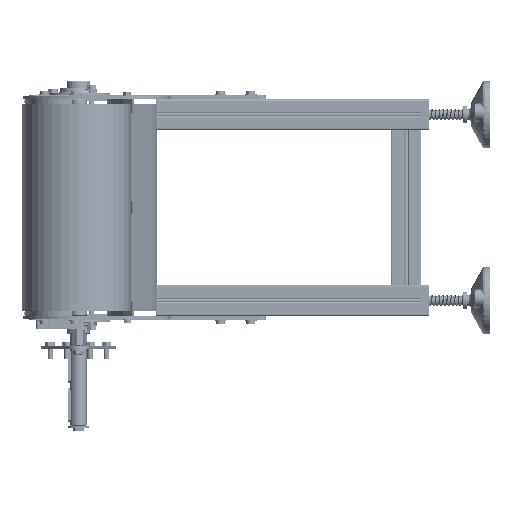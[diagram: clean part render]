
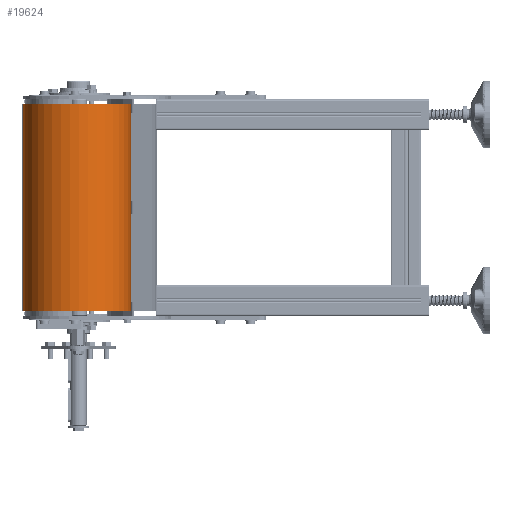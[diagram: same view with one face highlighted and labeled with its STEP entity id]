
A CAD part, left-side view. The second image highlights one B-rep face of the part: STEP entity #19624.
In plain terms, the highlighted free-form (B-spline) face has degree [1, 3] with [2, 28] control points.
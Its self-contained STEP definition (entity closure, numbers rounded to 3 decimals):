
#2871 = AXIS2_PLACEMENT_3D ( 'NONE', #120119, #69837, #111381 ) ;
#5144 = CARTESIAN_POINT ( 'NONE',  ( -152.4, -3.225, 1649.804 ) ) ;
#5805 = CARTESIAN_POINT ( 'NONE',  ( 152.4, 2.663, 1623.31 ) ) ;
#6462 = CARTESIAN_POINT ( 'NONE',  ( -152.4, -75.305, 1699.297 ) ) ;
#7128 = CARTESIAN_POINT ( 'NONE',  ( 152.4, -125.985, 1682.488 ) ) ;
#7781 = CARTESIAN_POINT ( 'NONE',  ( -152.4, 2.174, 1628.895 ) ) ;
#13216 = CARTESIAN_POINT ( 'NONE',  ( -152.4, -147.124, 1657.788 ) ) ;
#13993 = LINE ( 'NONE', #115174, #78661 ) ;
#15275 = ORIENTED_EDGE ( 'NONE', *, *, #108501, .T. ) ;
#15845 = CARTESIAN_POINT ( 'NONE',  ( 152.4, 1.354, 1634.239 ) ) ;
#16119 = CARTESIAN_POINT ( 'NONE',  ( -152.4, 2.652, 1623.509 ) ) ;
#16498 = CARTESIAN_POINT ( 'NONE',  ( 152.4, 2.567, 1624.859 ) ) ;
#17158 = CARTESIAN_POINT ( 'NONE',  ( -152.4, -43.595, 1692.125 ) ) ;
#19624 = ADVANCED_FACE ( 'NONE', ( #83537 ), #74809, .T. ) ;
#22585 = CARTESIAN_POINT ( 'NONE',  ( -152.4, -155.148, 1605.052 ) ) ;
#22898 = EDGE_CURVE ( 'NONE', #95676, #47160, #109089, .T. ) ;
#23226 = CARTESIAN_POINT ( 'NONE',  ( -152.4, -156.738, 1626.73 ) ) ;
#23961 = ORIENTED_EDGE ( 'NONE', *, *, #37957, .F. ) ;
#26605 = ORIENTED_EDGE ( 'NONE', *, *, #125986, .T. ) ;
#26676 = DIRECTION ( 'NONE',  ( 1., 0., 0. ) ) ;
#26745 = VECTOR ( 'NONE', #34894, 1000. ) ;
#27206 = CARTESIAN_POINT ( 'NONE',  ( -152.4, -96.785, 1696.785 ) ) ;
#27875 = CARTESIAN_POINT ( 'NONE',  ( -152.4, -17.326, 1672.97 ) ) ;
#28529 = CARTESIAN_POINT ( 'NONE',  ( 152.4, -64.311, 1698.334 ) ) ;
#28569 = DIRECTION ( 'NONE',  ( -1., 0., 0. ) ) ;
#28645 = DIRECTION ( 'NONE',  ( -1., 0., 0. ) ) ;
#29317 = CARTESIAN_POINT ( 'NONE',  ( 152.4, -155.148, 1605.052 ) ) ;
#34894 = DIRECTION ( 'NONE',  ( 0., 0.057, -0.998 ) ) ;
#35908 = CARTESIAN_POINT ( 'NONE',  ( 152.4, -155.148, 1605.052 ) ) ;
#36575 = CARTESIAN_POINT ( 'NONE',  ( 152.4, -157.044, 1615.7 ) ) ;
#37226 = CARTESIAN_POINT ( 'NONE',  ( -152.4, 2.456, 1626.206 ) ) ;
#37881 = CARTESIAN_POINT ( 'NONE',  ( 152.4, 1.995, 1630.235 ) ) ;
#37957 = EDGE_CURVE ( 'NONE', #95676, #90170, #107754, .T. ) ;
#38552 = CARTESIAN_POINT ( 'NONE',  ( 152.4, 2.615, 1624.164 ) ) ;
#45948 = CARTESIAN_POINT ( 'NONE',  ( 152.4, 2.174, 1628.895 ) ) ;
#47160 = VERTEX_POINT ( 'NONE', #92382 ) ;
#47270 = CARTESIAN_POINT ( 'NONE',  ( 152.4, -156.738, 1626.73 ) ) ;
#47941 = CARTESIAN_POINT ( 'NONE',  ( 152.4, -75.305, 1699.297 ) ) ;
#47969 = LINE ( 'NONE', #120362, #106048 ) ;
#48318 = EDGE_CURVE ( 'NONE', #47160, #59933, #103376, .T. ) ;
#48590 = CARTESIAN_POINT ( 'NONE',  ( 152.4, -33.883, 1686.882 ) ) ;
#49940 = AXIS2_PLACEMENT_3D ( 'NONE', #118468, #28645, #69497 ) ;
#54050 = CARTESIAN_POINT ( 'NONE',  ( -152.4, -134.224, 1675.146 ) ) ;
#56671 = CARTESIAN_POINT ( 'NONE',  ( -152.4, 1.995, 1630.235 ) ) ;
#58014 = CARTESIAN_POINT ( 'NONE',  ( -152.4, 2.392, 1626.879 ) ) ;
#58682 = CARTESIAN_POINT ( 'NONE',  ( -152.4, -1.298, 1644.723 ) ) ;
#59324 = VERTEX_POINT ( 'NONE', #94777 ) ;
#59933 = VERTEX_POINT ( 'NONE', #107326 ) ;
#63435 = CARTESIAN_POINT ( 'NONE',  ( -152.4, -157.044, 1615.7 ) ) ;
#66746 = CARTESIAN_POINT ( 'NONE',  ( 152.4, -147.124, 1657.788 ) ) ;
#67319 = EDGE_CURVE ( 'NONE', #90170, #71556, #76408, .T. ) ;
#68059 = CARTESIAN_POINT ( 'NONE',  ( -152.4, -64.311, 1698.334 ) ) ;
#69043 = CARTESIAN_POINT ( 'NONE',  ( -152.4, 2.652, 1623.509 ) ) ;
#69398 = CARTESIAN_POINT ( 'NONE',  ( -152.4, -107.261, 1693.31 ) ) ;
#69497 = DIRECTION ( 'NONE',  ( 0., -0.985, -0.175 ) ) ;
#69837 = DIRECTION ( 'NONE',  ( -1., 0., 0. ) ) ;
#71406 = CARTESIAN_POINT ( 'NONE',  ( -152.4, -155.148, 1605.052 ) ) ;
#71556 = VERTEX_POINT ( 'NONE', #106584 ) ;
#73848 = ORIENTED_EDGE ( 'NONE', *, *, #22898, .T. ) ;
#74809 = B_SPLINE_SURFACE_WITH_KNOTS ( 'NONE', 1, 3, ( 
 ( #22585, #63435, #23226, #104999, #13216, #54050, #94938, #69398, #27206, #6462, #68059, #17158, #86851, #27875, #108952, #5144, #58682, #79439, #77440, #56671, #7781, #58014, #37226, #99550, #118351, #127744, #120333, #129059 ),
 ( #35908, #36575, #47270, #98889, #66746, #107635, #7128, #119013, #78102, #47941, #28529, #88825, #48590, #108293, #88167, #97563, #129715, #117681, #15845, #37881, #45948, #76781, #78759, #16498, #38552, #96901, #119669, #5805 ) ),
 .UNSPECIFIED., .F., .F., .F.,
 ( 2, 2 ),
 ( 4, 2, 2, 2, 2, 2, 2, 2, 2, 2, 2, 2, 2, 4 ),
 ( 0., 1. ),
 ( 0.903, 0.915, 0.927, 0.94, 0.952, 0.964, 0.976, 0.988, 0.994, 0.997, 0.998, 0.999, 1., 1. ),
 .UNSPECIFIED. ) ;
#76408 = LINE ( 'NONE', #16119, #26745 ) ;
#76781 = CARTESIAN_POINT ( 'NONE',  ( 152.4, 2.392, 1626.879 ) ) ;
#77440 = CARTESIAN_POINT ( 'NONE',  ( -152.4, 1.354, 1634.239 ) ) ;
#78102 = CARTESIAN_POINT ( 'NONE',  ( 152.4, -96.785, 1696.785 ) ) ;
#78661 = VECTOR ( 'NONE', #96388, 1000. ) ;
#78759 = CARTESIAN_POINT ( 'NONE',  ( 152.4, 2.456, 1626.206 ) ) ;
#79439 = CARTESIAN_POINT ( 'NONE',  ( -152.4, 0.791, 1636.887 ) ) ;
#83537 = FACE_OUTER_BOUND ( 'NONE', #126866, .T. ) ;
#86851 = CARTESIAN_POINT ( 'NONE',  ( -152.4, -33.883, 1686.882 ) ) ;
#88167 = CARTESIAN_POINT ( 'NONE',  ( 152.4, -10.488, 1664.306 ) ) ;
#88825 = CARTESIAN_POINT ( 'NONE',  ( 152.4, -43.595, 1692.125 ) ) ;
#90170 = VERTEX_POINT ( 'NONE', #69043 ) ;
#92382 = CARTESIAN_POINT ( 'NONE',  ( 152.4, -155.148, 1605.052 ) ) ;
#94777 = CARTESIAN_POINT ( 'NONE',  ( 152.4, 2.653, 1623.491 ) ) ;
#94938 = CARTESIAN_POINT ( 'NONE',  ( -152.4, -125.985, 1682.488 ) ) ;
#95676 = VERTEX_POINT ( 'NONE', #71406 ) ;
#96388 = DIRECTION ( 'NONE',  ( 0., 0.057, -0.998 ) ) ;
#96901 = CARTESIAN_POINT ( 'NONE',  ( 152.4, 2.656, 1623.441 ) ) ;
#97563 = CARTESIAN_POINT ( 'NONE',  ( 152.4, -3.225, 1649.804 ) ) ;
#98889 = CARTESIAN_POINT ( 'NONE',  ( 152.4, -151.777, 1647.78 ) ) ;
#99550 = CARTESIAN_POINT ( 'NONE',  ( -152.4, 2.567, 1624.859 ) ) ;
#103376 = CIRCLE ( 'NONE', #2871, 79.58 ) ;
#104525 = VECTOR ( 'NONE', #26676, 1000. ) ;
#104999 = CARTESIAN_POINT ( 'NONE',  ( -152.4, -151.777, 1647.78 ) ) ;
#106048 = VECTOR ( 'NONE', #28569, 1000. ) ;
#106584 = CARTESIAN_POINT ( 'NONE',  ( -152.4, 2.653, 1623.491 ) ) ;
#107326 = CARTESIAN_POINT ( 'NONE',  ( 152.4, 2.652, 1623.509 ) ) ;
#107635 = CARTESIAN_POINT ( 'NONE',  ( 152.4, -134.224, 1675.146 ) ) ;
#107754 = CIRCLE ( 'NONE', #49940, 79.58 ) ;
#108293 = CARTESIAN_POINT ( 'NONE',  ( 152.4, -17.326, 1672.97 ) ) ;
#108501 = EDGE_CURVE ( 'NONE', #59324, #71556, #47969, .T. ) ;
#108952 = CARTESIAN_POINT ( 'NONE',  ( -152.4, -10.488, 1664.306 ) ) ;
#109089 = LINE ( 'NONE', #29317, #104525 ) ;
#111381 = DIRECTION ( 'NONE',  ( 0., -0.985, -0.175 ) ) ;
#113747 = ORIENTED_EDGE ( 'NONE', *, *, #48318, .T. ) ;
#115174 = CARTESIAN_POINT ( 'NONE',  ( 152.4, 2.652, 1623.509 ) ) ;
#117681 = CARTESIAN_POINT ( 'NONE',  ( 152.4, 0.791, 1636.887 ) ) ;
#118351 = CARTESIAN_POINT ( 'NONE',  ( -152.4, 2.615, 1624.164 ) ) ;
#118468 = CARTESIAN_POINT ( 'NONE',  ( -152.4, -76.8, 1619. ) ) ;
#119013 = CARTESIAN_POINT ( 'NONE',  ( 152.4, -107.261, 1693.31 ) ) ;
#119669 = CARTESIAN_POINT ( 'NONE',  ( 152.4, 2.66, 1623.378 ) ) ;
#120119 = CARTESIAN_POINT ( 'NONE',  ( 152.4, -76.8, 1619. ) ) ;
#120333 = CARTESIAN_POINT ( 'NONE',  ( -152.4, 2.66, 1623.378 ) ) ;
#120362 = CARTESIAN_POINT ( 'NONE',  ( 0., 2.653, 1623.491 ) ) ;
#122738 = ORIENTED_EDGE ( 'NONE', *, *, #67319, .F. ) ;
#125986 = EDGE_CURVE ( 'NONE', #59933, #59324, #13993, .T. ) ;
#126866 = EDGE_LOOP ( 'NONE', ( #26605, #15275, #122738, #23961, #73848, #113747 ) ) ;
#127744 = CARTESIAN_POINT ( 'NONE',  ( -152.4, 2.656, 1623.441 ) ) ;
#129059 = CARTESIAN_POINT ( 'NONE',  ( -152.4, 2.663, 1623.31 ) ) ;
#129715 = CARTESIAN_POINT ( 'NONE',  ( 152.4, -1.298, 1644.723 ) ) ;
